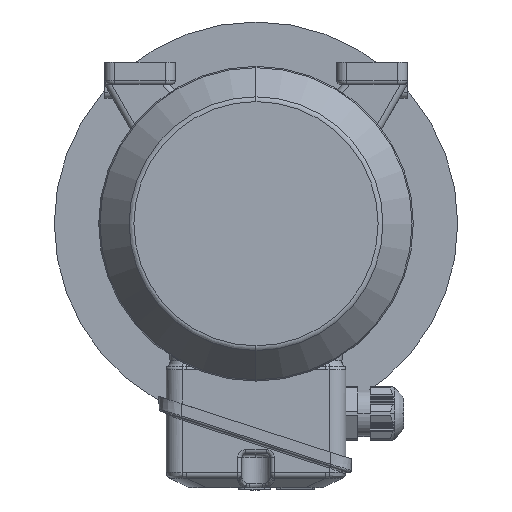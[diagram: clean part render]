
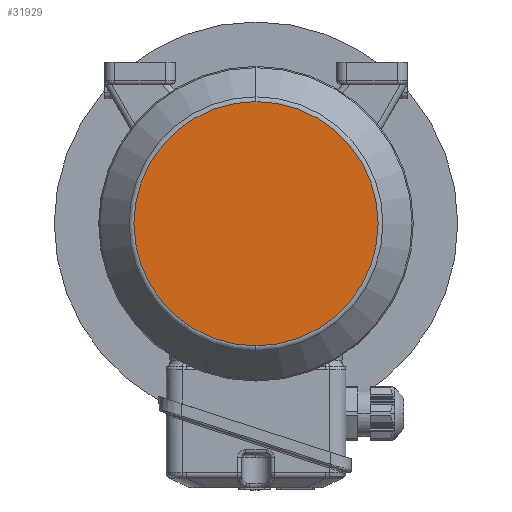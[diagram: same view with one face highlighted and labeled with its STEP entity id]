
A CAD part, left-side view. The second image highlights one B-rep face of the part: STEP entity #31929.
In plain terms, the highlighted planar face has unit normal (-1, 0, 0).
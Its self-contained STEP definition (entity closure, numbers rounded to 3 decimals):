
#652 = EDGE_CURVE ( 'NONE', #22492, #2226, #44671, .T. ) ;
#2226 = VERTEX_POINT ( 'NONE', #29684 ) ;
#7317 = PLANE ( 'NONE',  #28982 ) ;
#11265 = CARTESIAN_POINT ( 'NONE',  ( -163.65, 0., -60.537 ) ) ;
#11941 = AXIS2_PLACEMENT_3D ( 'NONE', #48252, #41061, #40897 ) ;
#12482 = ORIENTED_EDGE ( 'NONE', *, *, #652, .F. ) ;
#21351 = AXIS2_PLACEMENT_3D ( 'NONE', #25189, #24519, #28512 ) ;
#22492 = VERTEX_POINT ( 'NONE', #30625 ) ;
#22787 = DIRECTION ( 'NONE',  ( -1., 0., 0. ) ) ;
#24519 = DIRECTION ( 'NONE',  ( 1., 0., 0. ) ) ;
#25189 = CARTESIAN_POINT ( 'NONE',  ( -163.65, 0., 0. ) ) ;
#26596 = DIRECTION ( 'NONE',  ( 0., 1., 0. ) ) ;
#28512 = DIRECTION ( 'NONE',  ( 0., 0., -1. ) ) ;
#28982 = AXIS2_PLACEMENT_3D ( 'NONE', #11265, #22787, #26596 ) ;
#29684 = CARTESIAN_POINT ( 'NONE',  ( -163.65, 0., 60.537 ) ) ;
#30625 = CARTESIAN_POINT ( 'NONE',  ( -163.65, 0., -60.537 ) ) ;
#31929 = ADVANCED_FACE ( 'NONE', ( #42918 ), #7317, .T. ) ;
#37508 = EDGE_LOOP ( 'NONE', ( #12482, #42594 ) ) ;
#37891 = CIRCLE ( 'NONE', #11941, 60.537 ) ;
#39670 = EDGE_CURVE ( 'NONE', #2226, #22492, #37891, .T. ) ;
#40897 = DIRECTION ( 'NONE',  ( 0., 0., -1. ) ) ;
#41061 = DIRECTION ( 'NONE',  ( 1., 0., 0. ) ) ;
#42594 = ORIENTED_EDGE ( 'NONE', *, *, #39670, .F. ) ;
#42918 = FACE_OUTER_BOUND ( 'NONE', #37508, .T. ) ;
#44671 = CIRCLE ( 'NONE', #21351, 60.537 ) ;
#48252 = CARTESIAN_POINT ( 'NONE',  ( -163.65, 0., 0. ) ) ;
